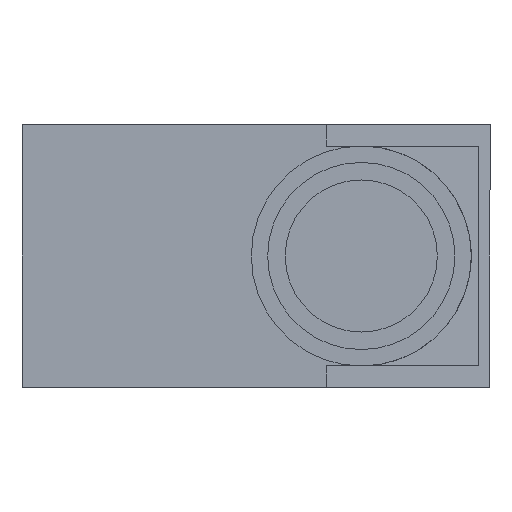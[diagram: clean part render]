
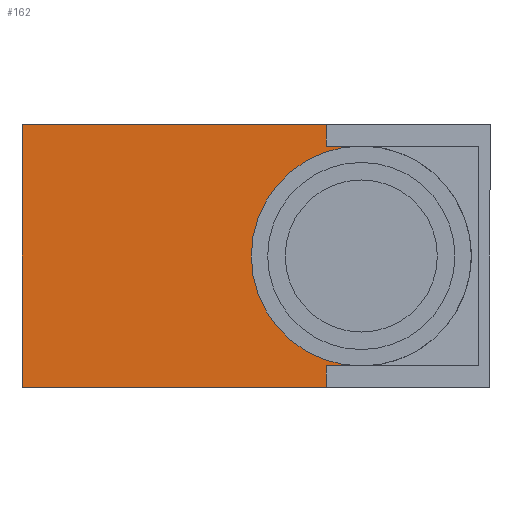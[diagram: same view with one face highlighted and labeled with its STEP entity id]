
A CAD part, front view. The second image highlights one B-rep face of the part: STEP entity #162.
In plain terms, the highlighted planar face has unit normal (0, -1, 0).
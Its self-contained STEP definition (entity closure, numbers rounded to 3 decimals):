
#158 = ORIENTED_EDGE ( 'NONE', *, *, #159, .T. ) ;
#159 = EDGE_CURVE ( 'NONE', #164, #411, #1331, .T. ) ;
#160 = EDGE_CURVE ( 'NONE', #2328, #2344, #1332, .T. ) ;
#161 = EDGE_LOOP ( 'NONE', ( #397, #220, #165, #237, #163, #158, #412, #240 ) ) ;
#162 = ADVANCED_FACE ( 'NONE', ( #1324 ), #1323, .F. ) ;
#163 = ORIENTED_EDGE ( 'NONE', *, *, #402, .F. ) ;
#164 = VERTEX_POINT ( 'NONE', #1318 ) ;
#165 = ORIENTED_EDGE ( 'NONE', *, *, #401, .F. ) ;
#219 = EDGE_CURVE ( 'NONE', #411, #2371, #1582, .T. ) ;
#220 = ORIENTED_EDGE ( 'NONE', *, *, #224, .T. ) ;
#224 = EDGE_CURVE ( 'NONE', #2344, #2478, #1578, .T. ) ;
#237 = ORIENTED_EDGE ( 'NONE', *, *, #2405, .F. ) ;
#240 = ORIENTED_EDGE ( 'NONE', *, *, #2370, .F. ) ;
#397 = ORIENTED_EDGE ( 'NONE', *, *, #160, .T. ) ;
#401 = EDGE_CURVE ( 'NONE', #2388, #2478, #1793, .T. ) ;
#402 = EDGE_CURVE ( 'NONE', #164, #2406, #1789, .T. ) ;
#411 = VERTEX_POINT ( 'NONE', #1723 ) ;
#412 = ORIENTED_EDGE ( 'NONE', *, *, #219, .T. ) ;
#1318 = CARTESIAN_POINT ( 'NONE',  ( 0., -31., 5.6 ) ) ;
#1319 = DIRECTION ( 'NONE',  ( 0., 0., 1. ) ) ;
#1320 = DIRECTION ( 'NONE',  ( 0., 1., 0. ) ) ;
#1321 = CARTESIAN_POINT ( 'NONE',  ( 0., -31., 5.6 ) ) ;
#1322 = AXIS2_PLACEMENT_3D ( 'NONE', #1321, #1320, #1319 ) ;
#1323 = PLANE ( 'NONE',  #1322 ) ;
#1324 = FACE_OUTER_BOUND ( 'NONE', #161, .T. ) ;
#1325 = DIRECTION ( 'NONE',  ( 1., 0., 0. ) ) ;
#1326 = VECTOR ( 'NONE', #1325, 1000. ) ;
#1327 = CARTESIAN_POINT ( 'NONE',  ( 13., -31., -4.7 ) ) ;
#1328 = DIRECTION ( 'NONE',  ( 0., 0., -1. ) ) ;
#1329 = VECTOR ( 'NONE', #1328, 1000. ) ;
#1330 = CARTESIAN_POINT ( 'NONE',  ( 0., -31., 5.6 ) ) ;
#1331 = LINE ( 'NONE', #1330, #1329 ) ;
#1332 = LINE ( 'NONE', #1327, #1326 ) ;
#1575 = DIRECTION ( 'NONE',  ( 0., 1., 0. ) ) ;
#1576 = CARTESIAN_POINT ( 'NONE',  ( 14.5, -31., 0. ) ) ;
#1577 = AXIS2_PLACEMENT_3D ( 'NONE', #1576, #1575, #1597 ) ;
#1578 = CIRCLE ( 'NONE', #1577, 4.7 ) ;
#1579 = DIRECTION ( 'NONE',  ( 1., 0., 0. ) ) ;
#1580 = VECTOR ( 'NONE', #1579, 1000. ) ;
#1581 = CARTESIAN_POINT ( 'NONE',  ( 0., -31., -5.6 ) ) ;
#1582 = LINE ( 'NONE', #1581, #1580 ) ;
#1597 = DIRECTION ( 'NONE',  ( 0., 0., 1. ) ) ;
#1723 = CARTESIAN_POINT ( 'NONE',  ( 0., -31., -5.6 ) ) ;
#1729 = DIRECTION ( 'NONE',  ( 1., 0., 0. ) ) ;
#1730 = VECTOR ( 'NONE', #1729, 1000. ) ;
#1731 = CARTESIAN_POINT ( 'NONE',  ( 0., -31., 5.6 ) ) ;
#1789 = LINE ( 'NONE', #1731, #1730 ) ;
#1790 = DIRECTION ( 'NONE',  ( 1., 0., 0. ) ) ;
#1791 = VECTOR ( 'NONE', #1790, 1000. ) ;
#1792 = CARTESIAN_POINT ( 'NONE',  ( 13., -31., 4.7 ) ) ;
#1793 = LINE ( 'NONE', #1792, #1791 ) ;
#2328 = VERTEX_POINT ( 'NONE', #2982 ) ;
#2344 = VERTEX_POINT ( 'NONE', #2961 ) ;
#2370 = EDGE_CURVE ( 'NONE', #2328, #2371, #3042, .T. ) ;
#2371 = VERTEX_POINT ( 'NONE', #3127 ) ;
#2388 = VERTEX_POINT ( 'NONE', #3145 ) ;
#2405 = EDGE_CURVE ( 'NONE', #2406, #2388, #3092, .T. ) ;
#2406 = VERTEX_POINT ( 'NONE', #3061 ) ;
#2478 = VERTEX_POINT ( 'NONE', #3262 ) ;
#2961 = CARTESIAN_POINT ( 'NONE',  ( 14.5, -31., -4.7 ) ) ;
#2982 = CARTESIAN_POINT ( 'NONE',  ( 13., -31., -4.7 ) ) ;
#3042 = LINE ( 'NONE', #3120, #3119 ) ;
#3061 = CARTESIAN_POINT ( 'NONE',  ( 13., -31., 5.6 ) ) ;
#3062 = DIRECTION ( 'NONE',  ( 0., 0., -1. ) ) ;
#3063 = VECTOR ( 'NONE', #3062, 1000. ) ;
#3064 = CARTESIAN_POINT ( 'NONE',  ( 13., -31., 55.193 ) ) ;
#3092 = LINE ( 'NONE', #3064, #3063 ) ;
#3118 = DIRECTION ( 'NONE',  ( 0., 0., -1. ) ) ;
#3119 = VECTOR ( 'NONE', #3118, 1000. ) ;
#3120 = CARTESIAN_POINT ( 'NONE',  ( 13., -31., 55.193 ) ) ;
#3127 = CARTESIAN_POINT ( 'NONE',  ( 13., -31., -5.6 ) ) ;
#3145 = CARTESIAN_POINT ( 'NONE',  ( 13., -31., 4.7 ) ) ;
#3262 = CARTESIAN_POINT ( 'NONE',  ( 14.5, -31., 4.7 ) ) ;
